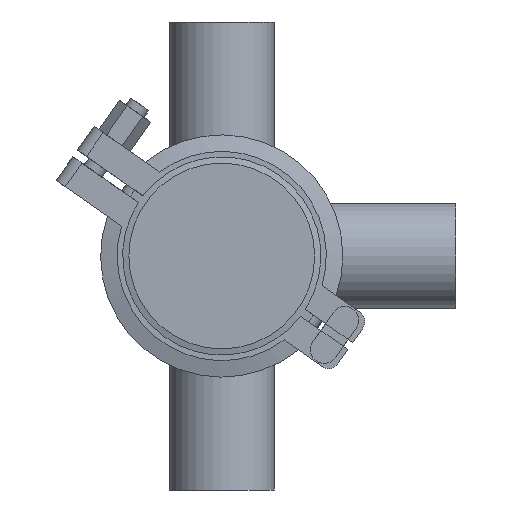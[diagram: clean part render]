
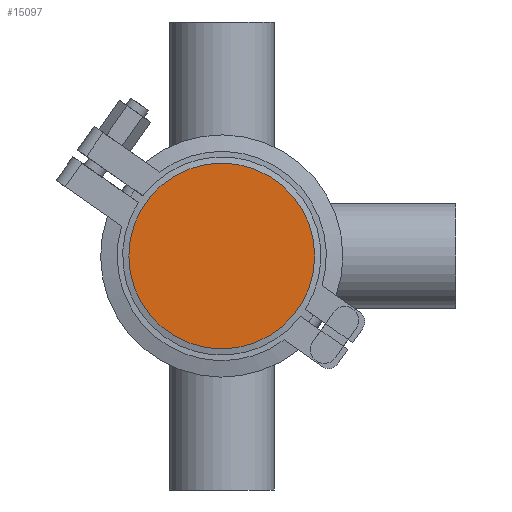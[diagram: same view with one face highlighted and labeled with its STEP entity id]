
A CAD part, front view. The second image highlights one B-rep face of the part: STEP entity #15097.
In plain terms, the highlighted planar face has unit normal (0, -1, 0).
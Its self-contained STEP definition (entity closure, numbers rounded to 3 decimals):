
#481 = CARTESIAN_POINT ( 'NONE',  ( -33.75, 0., 0. ) ) ;
#2216 = CARTESIAN_POINT ( 'NONE',  ( 0., 0., 0. ) ) ;
#3785 = DIRECTION ( 'NONE',  ( 0., -1., 0. ) ) ;
#3876 = DIRECTION ( 'NONE',  ( 0., 0., 1. ) ) ;
#3939 = EDGE_LOOP ( 'NONE', ( #5923 ) ) ;
#5791 = CIRCLE ( 'NONE', #13010, 33.75 ) ;
#5923 = ORIENTED_EDGE ( 'NONE', *, *, #16141, .F. ) ;
#6688 = FACE_OUTER_BOUND ( 'NONE', #3939, .T. ) ;
#6781 = DIRECTION ( 'NONE',  ( 0., 0., -1. ) ) ;
#9805 = AXIS2_PLACEMENT_3D ( 'NONE', #481, #3785, #6781 ) ;
#11019 = CARTESIAN_POINT ( 'NONE',  ( 0., 0., 33.75 ) ) ;
#13010 = AXIS2_PLACEMENT_3D ( 'NONE', #2216, #13154, #3876 ) ;
#13154 = DIRECTION ( 'NONE',  ( 0., 1., 0. ) ) ;
#14574 = PLANE ( 'NONE',  #9805 ) ;
#15097 = ADVANCED_FACE ( 'NONE', ( #6688 ), #14574, .T. ) ;
#16141 = EDGE_CURVE ( 'NONE', #20066, #20066, #5791, .T. ) ;
#20066 = VERTEX_POINT ( 'NONE', #11019 ) ;
